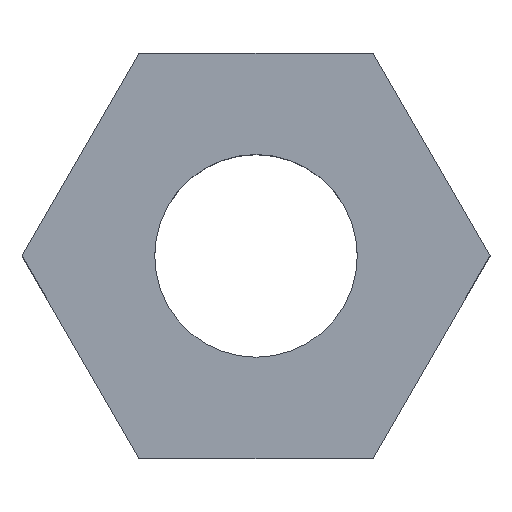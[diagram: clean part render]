
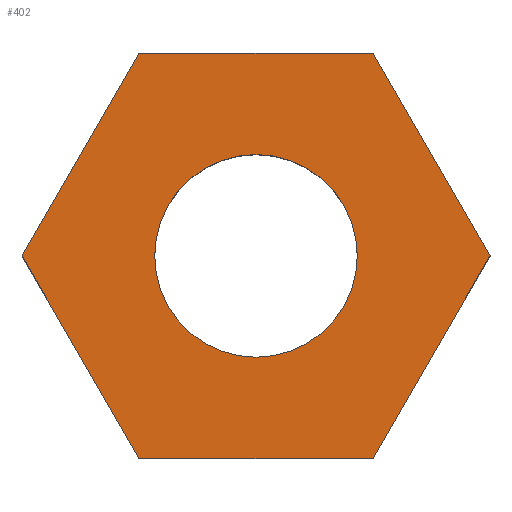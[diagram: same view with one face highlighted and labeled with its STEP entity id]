
A CAD part, top view. The second image highlights one B-rep face of the part: STEP entity #402.
In plain terms, the highlighted planar face has unit normal (0, 0, 1).
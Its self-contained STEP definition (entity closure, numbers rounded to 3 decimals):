
#24 = VERTEX_POINT('',#25);
#25 = CARTESIAN_POINT('',(-13.613,-16.969,-2.1));
#32 = PLANE('',#33);
#33 = AXIS2_PLACEMENT_3D('',#34,#35,#36);
#34 = CARTESIAN_POINT('',(-13.613,-16.969,-4.1));
#35 = DIRECTION('',(-0.866,-0.5,0.));
#36 = DIRECTION('',(-0.5,0.866,0.));
#44 = PLANE('',#45);
#45 = AXIS2_PLACEMENT_3D('',#46,#47,#48);
#46 = CARTESIAN_POINT('',(-15.057,-19.469,-4.1));
#47 = DIRECTION('',(-0.866,0.5,0.));
#48 = DIRECTION('',(0.5,0.866,0.));
#56 = EDGE_CURVE('',#24,#57,#59,.T.);
#57 = VERTEX_POINT('',#58);
#58 = CARTESIAN_POINT('',(-15.057,-14.469,-2.1));
#59 = SURFACE_CURVE('',#60,(#64,#71),.PCURVE_S1.);
#60 = LINE('',#61,#62);
#61 = CARTESIAN_POINT('',(-13.613,-16.969,-2.1));
#62 = VECTOR('',#63,1.);
#63 = DIRECTION('',(-0.5,0.866,0.));
#64 = PCURVE('',#32,#65);
#65 = DEFINITIONAL_REPRESENTATION('',(#66),#70);
#66 = LINE('',#67,#68);
#67 = CARTESIAN_POINT('',(0.,-2.));
#68 = VECTOR('',#69,1.);
#69 = DIRECTION('',(1.,0.));
#70 = ( GEOMETRIC_REPRESENTATION_CONTEXT(2) 
PARAMETRIC_REPRESENTATION_CONTEXT() REPRESENTATION_CONTEXT('2D SPACE',''
  ) );
#71 = PCURVE('',#72,#77);
#72 = PLANE('',#73);
#73 = AXIS2_PLACEMENT_3D('',#74,#75,#76);
#74 = CARTESIAN_POINT('',(-16.5,-16.969,-2.1));
#75 = DIRECTION('',(0.,0.,1.));
#76 = DIRECTION('',(1.,0.,-0.));
#77 = DEFINITIONAL_REPRESENTATION('',(#78),#82);
#78 = LINE('',#79,#80);
#79 = CARTESIAN_POINT('',(2.887,0.));
#80 = VECTOR('',#81,1.);
#81 = DIRECTION('',(-0.5,0.866));
#82 = ( GEOMETRIC_REPRESENTATION_CONTEXT(2) 
PARAMETRIC_REPRESENTATION_CONTEXT() REPRESENTATION_CONTEXT('2D SPACE',''
  ) );
#100 = PLANE('',#101);
#101 = AXIS2_PLACEMENT_3D('',#102,#103,#104);
#102 = CARTESIAN_POINT('',(-15.057,-14.469,-4.1));
#103 = DIRECTION('',(0.,-1.,0.));
#104 = DIRECTION('',(-1.,0.,0.));
#144 = VERTEX_POINT('',#145);
#145 = CARTESIAN_POINT('',(-15.057,-19.469,-2.1));
#159 = PLANE('',#160);
#160 = AXIS2_PLACEMENT_3D('',#161,#162,#163);
#161 = CARTESIAN_POINT('',(-17.943,-19.469,-4.1));
#162 = DIRECTION('',(0.,1.,-0.));
#163 = DIRECTION('',(1.,0.,0.));
#171 = EDGE_CURVE('',#144,#24,#172,.T.);
#172 = SURFACE_CURVE('',#173,(#177,#184),.PCURVE_S1.);
#173 = LINE('',#174,#175);
#174 = CARTESIAN_POINT('',(-15.057,-19.469,-2.1));
#175 = VECTOR('',#176,1.);
#176 = DIRECTION('',(0.5,0.866,0.));
#177 = PCURVE('',#44,#178);
#178 = DEFINITIONAL_REPRESENTATION('',(#179),#183);
#179 = LINE('',#180,#181);
#180 = CARTESIAN_POINT('',(0.,-2.));
#181 = VECTOR('',#182,1.);
#182 = DIRECTION('',(1.,0.));
#183 = ( GEOMETRIC_REPRESENTATION_CONTEXT(2) 
PARAMETRIC_REPRESENTATION_CONTEXT() REPRESENTATION_CONTEXT('2D SPACE',''
  ) );
#184 = PCURVE('',#72,#185);
#185 = DEFINITIONAL_REPRESENTATION('',(#186),#190);
#186 = LINE('',#187,#188);
#187 = CARTESIAN_POINT('',(1.443,-2.5));
#188 = VECTOR('',#189,1.);
#189 = DIRECTION('',(0.5,0.866));
#190 = ( GEOMETRIC_REPRESENTATION_CONTEXT(2) 
PARAMETRIC_REPRESENTATION_CONTEXT() REPRESENTATION_CONTEXT('2D SPACE',''
  ) );
#218 = EDGE_CURVE('',#57,#219,#221,.T.);
#219 = VERTEX_POINT('',#220);
#220 = CARTESIAN_POINT('',(-17.943,-14.469,-2.1));
#221 = SURFACE_CURVE('',#222,(#226,#233),.PCURVE_S1.);
#222 = LINE('',#223,#224);
#223 = CARTESIAN_POINT('',(-15.057,-14.469,-2.1));
#224 = VECTOR('',#225,1.);
#225 = DIRECTION('',(-1.,0.,0.));
#226 = PCURVE('',#100,#227);
#227 = DEFINITIONAL_REPRESENTATION('',(#228),#232);
#228 = LINE('',#229,#230);
#229 = CARTESIAN_POINT('',(0.,-2.));
#230 = VECTOR('',#231,1.);
#231 = DIRECTION('',(1.,0.));
#232 = ( GEOMETRIC_REPRESENTATION_CONTEXT(2) 
PARAMETRIC_REPRESENTATION_CONTEXT() REPRESENTATION_CONTEXT('2D SPACE',''
  ) );
#233 = PCURVE('',#72,#234);
#234 = DEFINITIONAL_REPRESENTATION('',(#235),#239);
#235 = LINE('',#236,#237);
#236 = CARTESIAN_POINT('',(1.443,2.5));
#237 = VECTOR('',#238,1.);
#238 = DIRECTION('',(-1.,0.));
#239 = ( GEOMETRIC_REPRESENTATION_CONTEXT(2) 
PARAMETRIC_REPRESENTATION_CONTEXT() REPRESENTATION_CONTEXT('2D SPACE',''
  ) );
#257 = PLANE('',#258);
#258 = AXIS2_PLACEMENT_3D('',#259,#260,#261);
#259 = CARTESIAN_POINT('',(-17.943,-14.469,-4.1));
#260 = DIRECTION('',(0.866,-0.5,0.));
#261 = DIRECTION('',(-0.5,-0.866,0.));
#334 = PLANE('',#335);
#335 = AXIS2_PLACEMENT_3D('',#336,#337,#338);
#336 = CARTESIAN_POINT('',(-19.387,-16.969,-4.1));
#337 = DIRECTION('',(0.866,0.5,-0.));
#338 = DIRECTION('',(0.5,-0.866,0.));
#391 = CYLINDRICAL_SURFACE('',#392,1.25);
#392 = AXIS2_PLACEMENT_3D('',#393,#394,#395);
#393 = CARTESIAN_POINT('',(-16.5,-16.969,-4.2));
#394 = DIRECTION('',(-0.,-0.,-1.));
#395 = DIRECTION('',(1.,0.,0.));
#402 = ADVANCED_FACE('',(#403,#475),#72,.T.);
#403 = FACE_BOUND('',#404,.T.);
#404 = EDGE_LOOP('',(#405,#406,#407,#430,#453,#474));
#405 = ORIENTED_EDGE('',*,*,#56,.T.);
#406 = ORIENTED_EDGE('',*,*,#218,.T.);
#407 = ORIENTED_EDGE('',*,*,#408,.T.);
#408 = EDGE_CURVE('',#219,#409,#411,.T.);
#409 = VERTEX_POINT('',#410);
#410 = CARTESIAN_POINT('',(-19.387,-16.969,-2.1));
#411 = SURFACE_CURVE('',#412,(#416,#423),.PCURVE_S1.);
#412 = LINE('',#413,#414);
#413 = CARTESIAN_POINT('',(-17.943,-14.469,-2.1));
#414 = VECTOR('',#415,1.);
#415 = DIRECTION('',(-0.5,-0.866,0.));
#416 = PCURVE('',#72,#417);
#417 = DEFINITIONAL_REPRESENTATION('',(#418),#422);
#418 = LINE('',#419,#420);
#419 = CARTESIAN_POINT('',(-1.443,2.5));
#420 = VECTOR('',#421,1.);
#421 = DIRECTION('',(-0.5,-0.866));
#422 = ( GEOMETRIC_REPRESENTATION_CONTEXT(2) 
PARAMETRIC_REPRESENTATION_CONTEXT() REPRESENTATION_CONTEXT('2D SPACE',''
  ) );
#423 = PCURVE('',#257,#424);
#424 = DEFINITIONAL_REPRESENTATION('',(#425),#429);
#425 = LINE('',#426,#427);
#426 = CARTESIAN_POINT('',(0.,-2.));
#427 = VECTOR('',#428,1.);
#428 = DIRECTION('',(1.,0.));
#429 = ( GEOMETRIC_REPRESENTATION_CONTEXT(2) 
PARAMETRIC_REPRESENTATION_CONTEXT() REPRESENTATION_CONTEXT('2D SPACE',''
  ) );
#430 = ORIENTED_EDGE('',*,*,#431,.T.);
#431 = EDGE_CURVE('',#409,#432,#434,.T.);
#432 = VERTEX_POINT('',#433);
#433 = CARTESIAN_POINT('',(-17.943,-19.469,-2.1));
#434 = SURFACE_CURVE('',#435,(#439,#446),.PCURVE_S1.);
#435 = LINE('',#436,#437);
#436 = CARTESIAN_POINT('',(-19.387,-16.969,-2.1));
#437 = VECTOR('',#438,1.);
#438 = DIRECTION('',(0.5,-0.866,0.));
#439 = PCURVE('',#72,#440);
#440 = DEFINITIONAL_REPRESENTATION('',(#441),#445);
#441 = LINE('',#442,#443);
#442 = CARTESIAN_POINT('',(-2.887,0.));
#443 = VECTOR('',#444,1.);
#444 = DIRECTION('',(0.5,-0.866));
#445 = ( GEOMETRIC_REPRESENTATION_CONTEXT(2) 
PARAMETRIC_REPRESENTATION_CONTEXT() REPRESENTATION_CONTEXT('2D SPACE',''
  ) );
#446 = PCURVE('',#334,#447);
#447 = DEFINITIONAL_REPRESENTATION('',(#448),#452);
#448 = LINE('',#449,#450);
#449 = CARTESIAN_POINT('',(0.,-2.));
#450 = VECTOR('',#451,1.);
#451 = DIRECTION('',(1.,0.));
#452 = ( GEOMETRIC_REPRESENTATION_CONTEXT(2) 
PARAMETRIC_REPRESENTATION_CONTEXT() REPRESENTATION_CONTEXT('2D SPACE',''
  ) );
#453 = ORIENTED_EDGE('',*,*,#454,.T.);
#454 = EDGE_CURVE('',#432,#144,#455,.T.);
#455 = SURFACE_CURVE('',#456,(#460,#467),.PCURVE_S1.);
#456 = LINE('',#457,#458);
#457 = CARTESIAN_POINT('',(-17.943,-19.469,-2.1));
#458 = VECTOR('',#459,1.);
#459 = DIRECTION('',(1.,0.,0.));
#460 = PCURVE('',#72,#461);
#461 = DEFINITIONAL_REPRESENTATION('',(#462),#466);
#462 = LINE('',#463,#464);
#463 = CARTESIAN_POINT('',(-1.443,-2.5));
#464 = VECTOR('',#465,1.);
#465 = DIRECTION('',(1.,0.));
#466 = ( GEOMETRIC_REPRESENTATION_CONTEXT(2) 
PARAMETRIC_REPRESENTATION_CONTEXT() REPRESENTATION_CONTEXT('2D SPACE',''
  ) );
#467 = PCURVE('',#159,#468);
#468 = DEFINITIONAL_REPRESENTATION('',(#469),#473);
#469 = LINE('',#470,#471);
#470 = CARTESIAN_POINT('',(0.,-2.));
#471 = VECTOR('',#472,1.);
#472 = DIRECTION('',(1.,0.));
#473 = ( GEOMETRIC_REPRESENTATION_CONTEXT(2) 
PARAMETRIC_REPRESENTATION_CONTEXT() REPRESENTATION_CONTEXT('2D SPACE',''
  ) );
#474 = ORIENTED_EDGE('',*,*,#171,.T.);
#475 = FACE_BOUND('',#476,.T.);
#476 = EDGE_LOOP('',(#477));
#477 = ORIENTED_EDGE('',*,*,#478,.T.);
#478 = EDGE_CURVE('',#479,#479,#481,.T.);
#479 = VERTEX_POINT('',#480);
#480 = CARTESIAN_POINT('',(-15.25,-16.969,-2.1));
#481 = SURFACE_CURVE('',#482,(#487,#498),.PCURVE_S1.);
#482 = CIRCLE('',#483,1.25);
#483 = AXIS2_PLACEMENT_3D('',#484,#485,#486);
#484 = CARTESIAN_POINT('',(-16.5,-16.969,-2.1));
#485 = DIRECTION('',(0.,0.,-1.));
#486 = DIRECTION('',(1.,0.,0.));
#487 = PCURVE('',#72,#488);
#488 = DEFINITIONAL_REPRESENTATION('',(#489),#497);
#489 = ( BOUNDED_CURVE() B_SPLINE_CURVE(2,(#490,#491,#492,#493,#494,#495
,#496),.UNSPECIFIED.,.T.,.F.) B_SPLINE_CURVE_WITH_KNOTS((1,2,2,2,2,1),(
    -2.094,0.,2.094,4.189,6.283,
8.378),.UNSPECIFIED.) CURVE() GEOMETRIC_REPRESENTATION_ITEM() 
RATIONAL_B_SPLINE_CURVE((1.,0.5,1.,0.5,1.,0.5,1.)) REPRESENTATION_ITEM(
  '') );
#490 = CARTESIAN_POINT('',(1.25,0.));
#491 = CARTESIAN_POINT('',(1.25,-2.165));
#492 = CARTESIAN_POINT('',(-0.625,-1.083));
#493 = CARTESIAN_POINT('',(-2.5,0.));
#494 = CARTESIAN_POINT('',(-0.625,1.083));
#495 = CARTESIAN_POINT('',(1.25,2.165));
#496 = CARTESIAN_POINT('',(1.25,0.));
#497 = ( GEOMETRIC_REPRESENTATION_CONTEXT(2) 
PARAMETRIC_REPRESENTATION_CONTEXT() REPRESENTATION_CONTEXT('2D SPACE',''
  ) );
#498 = PCURVE('',#391,#499);
#499 = DEFINITIONAL_REPRESENTATION('',(#500),#504);
#500 = LINE('',#501,#502);
#501 = CARTESIAN_POINT('',(-6.283,-2.1));
#502 = VECTOR('',#503,1.);
#503 = DIRECTION('',(1.,-0.));
#504 = ( GEOMETRIC_REPRESENTATION_CONTEXT(2) 
PARAMETRIC_REPRESENTATION_CONTEXT() REPRESENTATION_CONTEXT('2D SPACE',''
  ) );
